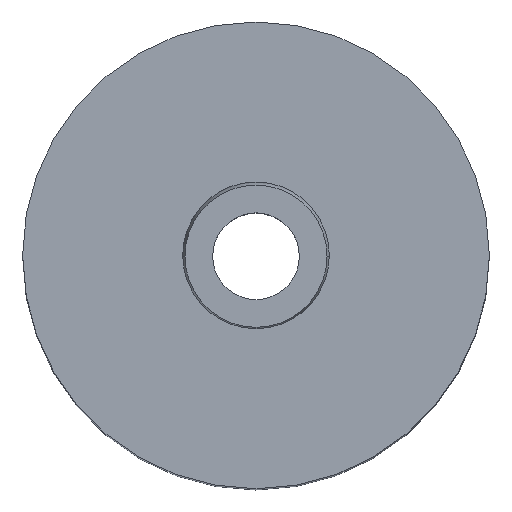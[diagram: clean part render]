
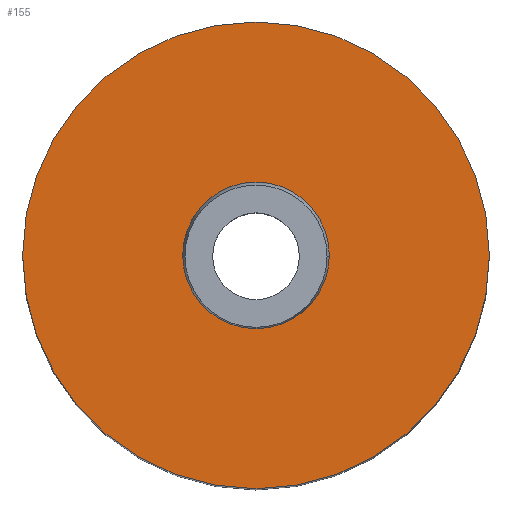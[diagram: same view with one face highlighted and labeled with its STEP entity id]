
A CAD part, top view. The second image highlights one B-rep face of the part: STEP entity #155.
In plain terms, the highlighted planar face has unit normal (0, 0, 1).
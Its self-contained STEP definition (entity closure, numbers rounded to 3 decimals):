
#155=ADVANCED_FACE('',(#179,#180),#174,.T.);
#174=PLANE('',#380);
#179=FACE_BOUND('',#189,.T.);
#180=FACE_BOUND('',#190,.T.);
#189=EDGE_LOOP('',(#213,#214));
#190=EDGE_LOOP('',(#215,#216));
#213=ORIENTED_EDGE('',*,*,#313,.T.);
#214=ORIENTED_EDGE('',*,*,#314,.T.);
#215=ORIENTED_EDGE('',*,*,#315,.F.);
#216=ORIENTED_EDGE('',*,*,#316,.F.);
#289=VERTEX_POINT('',#523);
#290=VERTEX_POINT('',#524);
#291=VERTEX_POINT('',#527);
#292=VERTEX_POINT('',#528);
#313=EDGE_CURVE('',#289,#290,#351,.T.);
#314=EDGE_CURVE('',#290,#289,#352,.T.);
#315=EDGE_CURVE('',#291,#292,#353,.T.);
#316=EDGE_CURVE('',#292,#291,#354,.T.);
#351=CIRCLE('',#376,35.);
#352=CIRCLE('',#377,35.);
#353=CIRCLE('',#378,11.);
#354=CIRCLE('',#379,11.);
#376=AXIS2_PLACEMENT_3D('',#522,#421,#422);
#377=AXIS2_PLACEMENT_3D('',#525,#423,#424);
#378=AXIS2_PLACEMENT_3D('',#526,#425,#426);
#379=AXIS2_PLACEMENT_3D('',#529,#427,#428);
#380=AXIS2_PLACEMENT_3D('',#530,#429,#430);
#421=DIRECTION('',(0.,0.,1.));
#422=DIRECTION('',(0.,1.,0.));
#423=DIRECTION('',(0.,0.,1.));
#424=DIRECTION('',(0.,-1.,0.));
#425=DIRECTION('',(0.,0.,1.));
#426=DIRECTION('',(0.,-1.,0.));
#427=DIRECTION('',(0.,0.,1.));
#428=DIRECTION('',(0.,1.,0.));
#429=DIRECTION('',(0.,0.,1.));
#430=DIRECTION('',(0.,1.,0.));
#522=CARTESIAN_POINT('',(0.,0.,110.));
#523=CARTESIAN_POINT('',(-35.,0.,110.));
#524=CARTESIAN_POINT('',(35.,0.,110.));
#525=CARTESIAN_POINT('',(0.,0.,110.));
#526=CARTESIAN_POINT('',(0.,0.,110.));
#527=CARTESIAN_POINT('',(11.,0.,110.));
#528=CARTESIAN_POINT('',(-11.,0.,110.));
#529=CARTESIAN_POINT('',(0.,0.,110.));
#530=CARTESIAN_POINT('',(0.,0.,110.));
